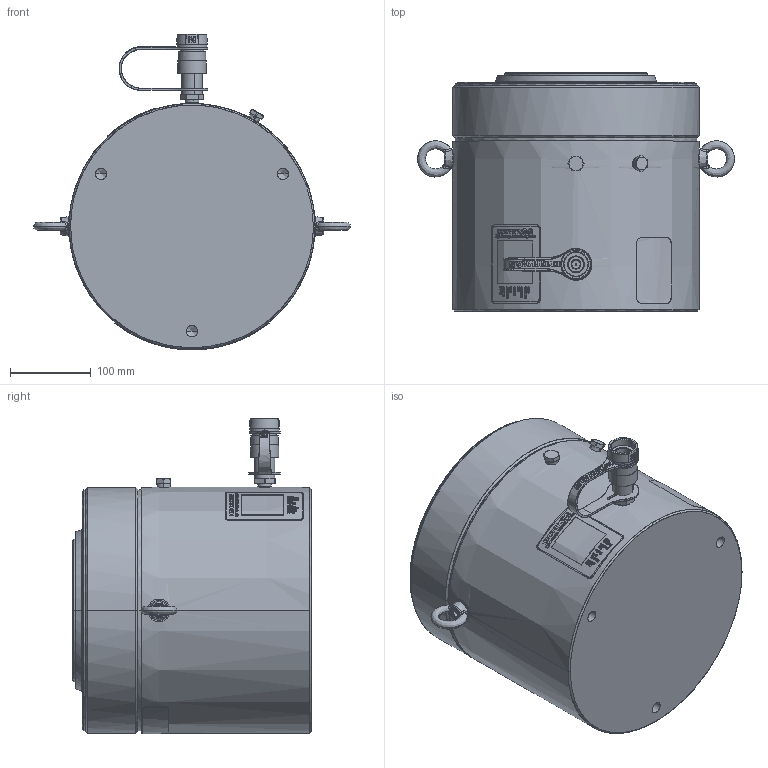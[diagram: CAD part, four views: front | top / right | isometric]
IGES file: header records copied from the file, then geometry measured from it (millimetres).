
Start section:  PTC IGES file: hcg3002.igs
Global section: file name: hcg3002.igs; native system: Creo Parametric by PTC Inc.; preprocessor: 2015290; author: Akhilesh.Subrahmanya; organization: Unknown; date: 20170720.082844; units: millimetre
Bounding box: 393 x 296 x 391.69 mm (x, y, z)
Surface area: 801895.2 mm2 (no closed solid volume)
Topology: 0 solids, 0 shells, 687 faces, 6044 edges, 6029 vertices
Faces by surface type: revolution 431, bspline 251, extrusion 5
